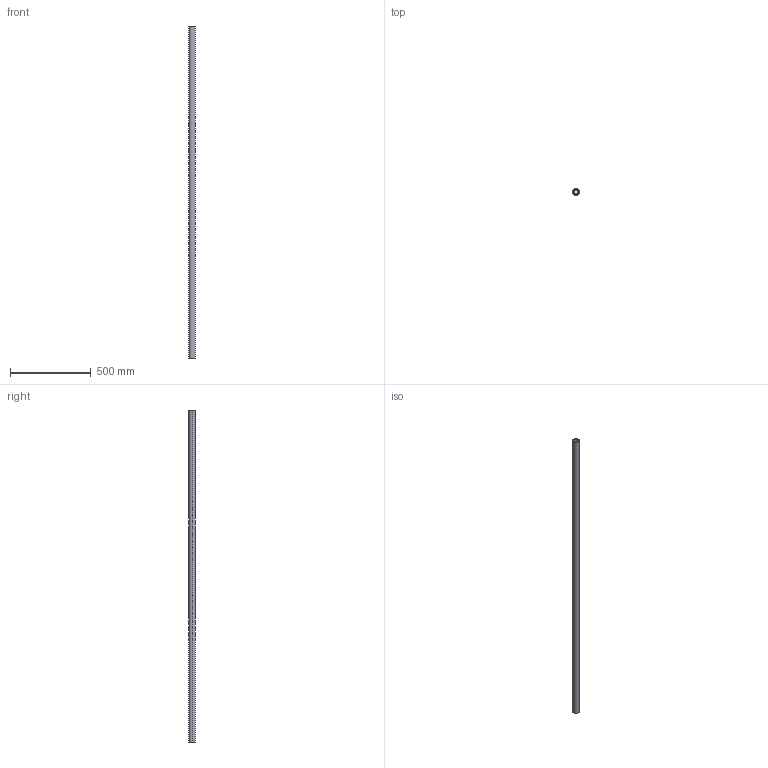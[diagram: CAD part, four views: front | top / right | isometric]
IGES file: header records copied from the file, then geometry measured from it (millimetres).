
Start section: SolidWorks IGES file using analytic representation for surfaces
Global section: file name: C:\Users\IanO\Desktop\L1771_v2\L1771.40_v2\L1771.40_v2_20230705_IGES\L1771.40-2050.igs; native system: SolidWorks 2019; preprocessor: SolidWorks 2019; author: IanO; date: 230705.161011; units: millimetre
Bounding box: 40 x 40 x 2050 mm (x, y, z)
Surface area: 439219.8 mm2 (no closed solid volume)
Topology: 0 solids, 0 shells, 6 faces, 272 edges, 272 vertices
Faces by surface type: revolution 4, bspline 2
